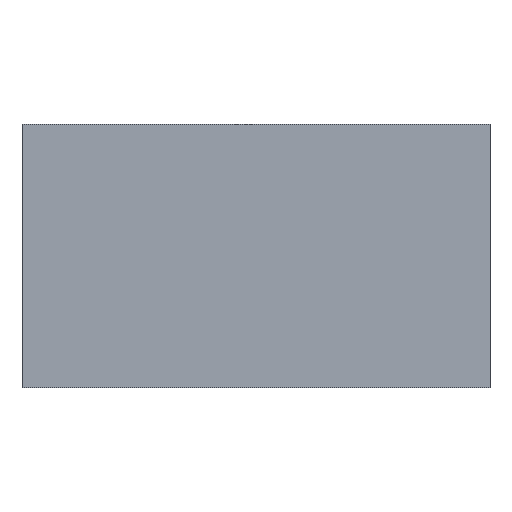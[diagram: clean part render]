
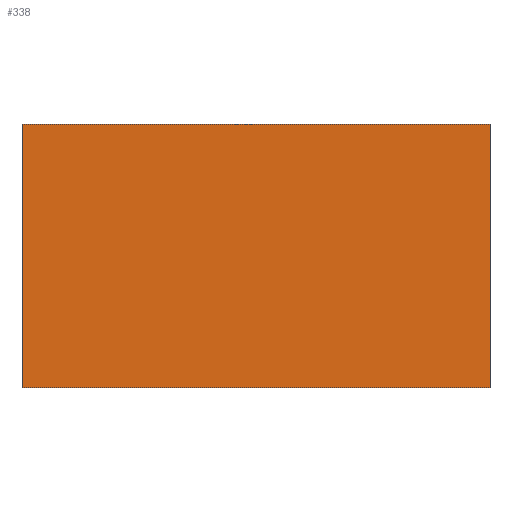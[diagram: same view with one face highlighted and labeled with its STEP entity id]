
A CAD part, top view. The second image highlights one B-rep face of the part: STEP entity #338.
In plain terms, the highlighted planar face has unit normal (0, 0, 1).
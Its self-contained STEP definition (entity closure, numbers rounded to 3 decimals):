
#24 = VERTEX_POINT('',#25);
#25 = CARTESIAN_POINT('',(-320.,-180.,25.));
#32 = PLANE('',#33);
#33 = AXIS2_PLACEMENT_3D('',#34,#35,#36);
#34 = CARTESIAN_POINT('',(-320.,-180.,0.));
#35 = DIRECTION('',(0.,1.,0.));
#36 = DIRECTION('',(1.,0.,0.));
#44 = PLANE('',#45);
#45 = AXIS2_PLACEMENT_3D('',#46,#47,#48);
#46 = CARTESIAN_POINT('',(-320.,180.,0.));
#47 = DIRECTION('',(1.,0.,-0.));
#48 = DIRECTION('',(0.,-1.,0.));
#56 = EDGE_CURVE('',#24,#57,#59,.T.);
#57 = VERTEX_POINT('',#58);
#58 = CARTESIAN_POINT('',(320.,-180.,25.));
#59 = SURFACE_CURVE('',#60,(#64,#71),.PCURVE_S1.);
#60 = LINE('',#61,#62);
#61 = CARTESIAN_POINT('',(-320.,-180.,25.));
#62 = VECTOR('',#63,1.);
#63 = DIRECTION('',(1.,0.,0.));
#64 = PCURVE('',#32,#65);
#65 = DEFINITIONAL_REPRESENTATION('',(#66),#70);
#66 = LINE('',#67,#68);
#67 = CARTESIAN_POINT('',(0.,-25.));
#68 = VECTOR('',#69,1.);
#69 = DIRECTION('',(1.,0.));
#70 = ( GEOMETRIC_REPRESENTATION_CONTEXT(2) 
PARAMETRIC_REPRESENTATION_CONTEXT() REPRESENTATION_CONTEXT('2D SPACE',''
  ) );
#71 = PCURVE('',#72,#77);
#72 = PLANE('',#73);
#73 = AXIS2_PLACEMENT_3D('',#74,#75,#76);
#74 = CARTESIAN_POINT('',(0.,0.,25.));
#75 = DIRECTION('',(0.,0.,1.));
#76 = DIRECTION('',(1.,0.,-0.));
#77 = DEFINITIONAL_REPRESENTATION('',(#78),#82);
#78 = LINE('',#79,#80);
#79 = CARTESIAN_POINT('',(-320.,-180.));
#80 = VECTOR('',#81,1.);
#81 = DIRECTION('',(1.,0.));
#82 = ( GEOMETRIC_REPRESENTATION_CONTEXT(2) 
PARAMETRIC_REPRESENTATION_CONTEXT() REPRESENTATION_CONTEXT('2D SPACE',''
  ) );
#100 = PLANE('',#101);
#101 = AXIS2_PLACEMENT_3D('',#102,#103,#104);
#102 = CARTESIAN_POINT('',(320.,-180.,0.));
#103 = DIRECTION('',(-1.,0.,0.));
#104 = DIRECTION('',(0.,1.,0.));
#142 = EDGE_CURVE('',#57,#143,#145,.T.);
#143 = VERTEX_POINT('',#144);
#144 = CARTESIAN_POINT('',(320.,180.,25.));
#145 = SURFACE_CURVE('',#146,(#150,#157),.PCURVE_S1.);
#146 = LINE('',#147,#148);
#147 = CARTESIAN_POINT('',(320.,-180.,25.));
#148 = VECTOR('',#149,1.);
#149 = DIRECTION('',(0.,1.,0.));
#150 = PCURVE('',#100,#151);
#151 = DEFINITIONAL_REPRESENTATION('',(#152),#156);
#152 = LINE('',#153,#154);
#153 = CARTESIAN_POINT('',(0.,-25.));
#154 = VECTOR('',#155,1.);
#155 = DIRECTION('',(1.,0.));
#156 = ( GEOMETRIC_REPRESENTATION_CONTEXT(2) 
PARAMETRIC_REPRESENTATION_CONTEXT() REPRESENTATION_CONTEXT('2D SPACE',''
  ) );
#157 = PCURVE('',#72,#158);
#158 = DEFINITIONAL_REPRESENTATION('',(#159),#163);
#159 = LINE('',#160,#161);
#160 = CARTESIAN_POINT('',(320.,-180.));
#161 = VECTOR('',#162,1.);
#162 = DIRECTION('',(0.,1.));
#163 = ( GEOMETRIC_REPRESENTATION_CONTEXT(2) 
PARAMETRIC_REPRESENTATION_CONTEXT() REPRESENTATION_CONTEXT('2D SPACE',''
  ) );
#181 = PLANE('',#182);
#182 = AXIS2_PLACEMENT_3D('',#183,#184,#185);
#183 = CARTESIAN_POINT('',(320.,180.,0.));
#184 = DIRECTION('',(0.,-1.,0.));
#185 = DIRECTION('',(-1.,0.,0.));
#218 = EDGE_CURVE('',#143,#219,#221,.T.);
#219 = VERTEX_POINT('',#220);
#220 = CARTESIAN_POINT('',(-320.,180.,25.));
#221 = SURFACE_CURVE('',#222,(#226,#233),.PCURVE_S1.);
#222 = LINE('',#223,#224);
#223 = CARTESIAN_POINT('',(320.,180.,25.));
#224 = VECTOR('',#225,1.);
#225 = DIRECTION('',(-1.,0.,0.));
#226 = PCURVE('',#181,#227);
#227 = DEFINITIONAL_REPRESENTATION('',(#228),#232);
#228 = LINE('',#229,#230);
#229 = CARTESIAN_POINT('',(0.,-25.));
#230 = VECTOR('',#231,1.);
#231 = DIRECTION('',(1.,0.));
#232 = ( GEOMETRIC_REPRESENTATION_CONTEXT(2) 
PARAMETRIC_REPRESENTATION_CONTEXT() REPRESENTATION_CONTEXT('2D SPACE',''
  ) );
#233 = PCURVE('',#72,#234);
#234 = DEFINITIONAL_REPRESENTATION('',(#235),#239);
#235 = LINE('',#236,#237);
#236 = CARTESIAN_POINT('',(320.,180.));
#237 = VECTOR('',#238,1.);
#238 = DIRECTION('',(-1.,0.));
#239 = ( GEOMETRIC_REPRESENTATION_CONTEXT(2) 
PARAMETRIC_REPRESENTATION_CONTEXT() REPRESENTATION_CONTEXT('2D SPACE',''
  ) );
#289 = EDGE_CURVE('',#219,#24,#290,.T.);
#290 = SURFACE_CURVE('',#291,(#295,#302),.PCURVE_S1.);
#291 = LINE('',#292,#293);
#292 = CARTESIAN_POINT('',(-320.,180.,25.));
#293 = VECTOR('',#294,1.);
#294 = DIRECTION('',(0.,-1.,0.));
#295 = PCURVE('',#44,#296);
#296 = DEFINITIONAL_REPRESENTATION('',(#297),#301);
#297 = LINE('',#298,#299);
#298 = CARTESIAN_POINT('',(0.,-25.));
#299 = VECTOR('',#300,1.);
#300 = DIRECTION('',(1.,0.));
#301 = ( GEOMETRIC_REPRESENTATION_CONTEXT(2) 
PARAMETRIC_REPRESENTATION_CONTEXT() REPRESENTATION_CONTEXT('2D SPACE',''
  ) );
#302 = PCURVE('',#72,#303);
#303 = DEFINITIONAL_REPRESENTATION('',(#304),#308);
#304 = LINE('',#305,#306);
#305 = CARTESIAN_POINT('',(-320.,180.));
#306 = VECTOR('',#307,1.);
#307 = DIRECTION('',(0.,-1.));
#308 = ( GEOMETRIC_REPRESENTATION_CONTEXT(2) 
PARAMETRIC_REPRESENTATION_CONTEXT() REPRESENTATION_CONTEXT('2D SPACE',''
  ) );
#338 = ADVANCED_FACE('',(#339),#72,.T.);
#339 = FACE_BOUND('',#340,.T.);
#340 = EDGE_LOOP('',(#341,#342,#343,#344));
#341 = ORIENTED_EDGE('',*,*,#56,.T.);
#342 = ORIENTED_EDGE('',*,*,#142,.T.);
#343 = ORIENTED_EDGE('',*,*,#218,.T.);
#344 = ORIENTED_EDGE('',*,*,#289,.T.);
